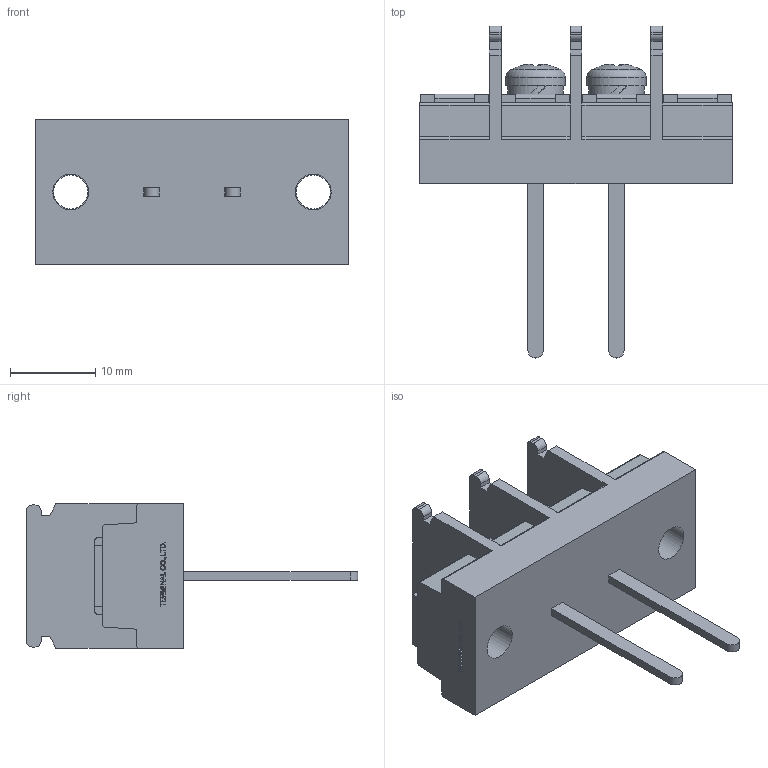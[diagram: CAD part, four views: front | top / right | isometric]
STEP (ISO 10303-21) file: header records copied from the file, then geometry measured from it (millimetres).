
FILE_DESCRIPTION(/* description */ ('Alibre Inc.'),/* implementation_level */ '2;1');
FILE_NAME(/* name */ 'export-830AA39B-D2F9-497A-9E0B-9072966D2ECD',/* time_stamp */ '2021-02-02T11:17:34+09:00',/* author */ (''),/* organization */ (''),/* preprocessor_version */ 'ST-DEVELOPER v17',/* originating_system */ 'Alibre',/* authorisation */ '');
FILE_SCHEMA (('CONFIG_CONTROL_DESIGN'));
Length unit declared in the file: millimetre
Bounding box: 36.7 x 39 x 17 mm (x, y, z)
Volume: 6131.7 mm3; surface area: 4256 mm2
Topology: 1 solids, 3 shells, 602 faces, 1634 edges, 1088 vertices
Faces by surface type: plane 432, bspline 104, cylinder 50, cone 10, torus 4, sphere 2
Full cylindrical faces by diameter (mm): 4 x6, 4.2 x2, 6.5 x2, 7 x2
Entity records: 18367 total; most frequent: CARTESIAN_POINT 4268, ORIENTED_EDGE 3216, DIRECTION 2094, EDGE_CURVE 1608, VECTOR 1210, LINE 1210, VERTEX_POINT 1078, EDGE_LOOP 680
